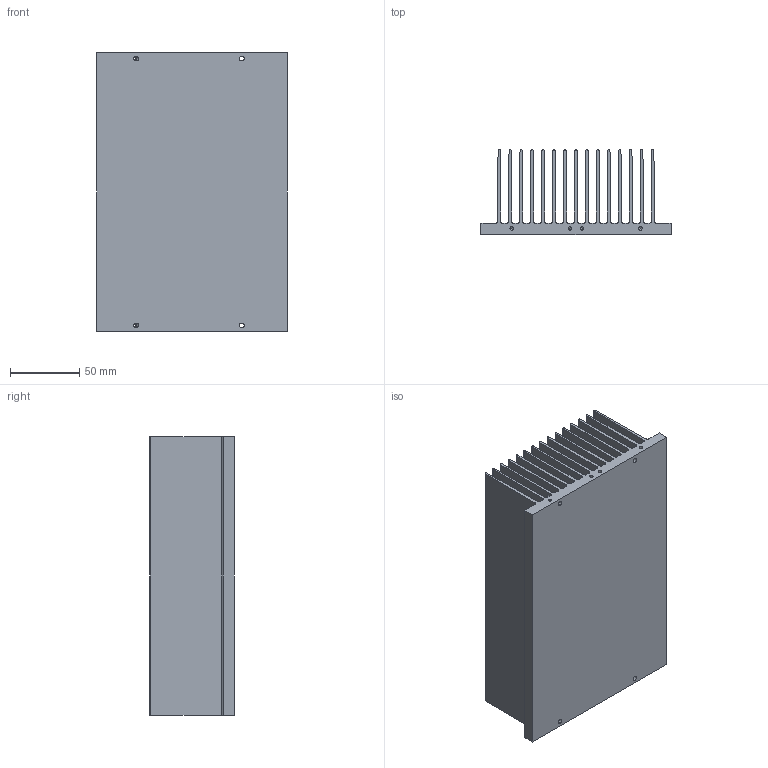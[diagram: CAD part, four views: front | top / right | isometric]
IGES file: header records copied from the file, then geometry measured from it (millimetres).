
Start section: SolidWorks IGES file using analytic representation for surfaces
Global section: file name: E:\ALL Users\Chris Roy\Projects\Xenus Plus\13\13-00139-000.IGS; native system: SolidWorks 2008; preprocessor: SolidWorks 2008; author: croy; date: 090212.155109; units: inch
Bounding box: 137.16 x 61.09 x 200.66 mm (x, y, z)
Surface area: 376587.7 mm2 (no closed solid volume)
Topology: 0 solids, 0 shells, 142 faces, 1914 edges, 1894 vertices
Faces by surface type: revolution 89, bspline 53
